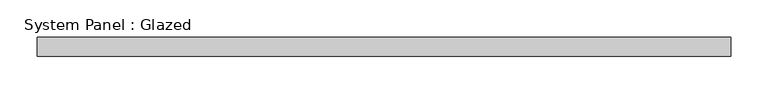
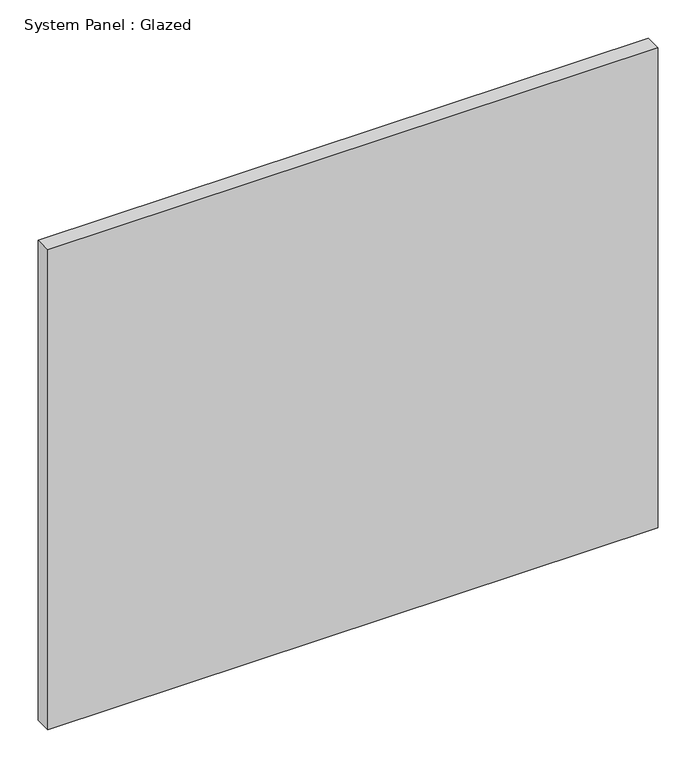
"""IFC4 building model written with IfcOpenShell, lengths in millimetres: plate geometry, System Panel : Glazed."""

from ifc_helpers import new_model, si_unit, origin, origin_with_axes, place, context, project, spatial, polyline, outline, extrude, source, transform, mapped, element, save


def system_panel_glazed_83a0b09a(model_context):
    return source(origin(), model_context, "Body", "SweptSolid", [
        extrude(outline(polyline([(463.55, -44.45), (-463.55, -44.45), (-463.55, -19.05), (463.55, -19.05), (463.55, -44.45)])), origin_with_axes(), (0.0, 0.0, 1.0), 770.6690025),
    ])


if __name__ == "__main__":
    model = new_model("IFC4")
    model_context = context("Model", 3, world=origin())
    ifc_project = project(units=[si_unit("LENGTHUNIT", "METRE", prefix="MILLI")], contexts=[model_context])
    site = spatial("IfcSite", under=ifc_project)
    building = spatial("IfcBuilding", under=site)
    placement = place(None, origin())
    system_panel_glazed_shape = system_panel_glazed_83a0b09a(model_context)
    element("IfcPlate", 1, ObjectType="System Panel : Glazed", at=placement, inside=building, context=model_context, shape_type="MappedRepresentation", body=[
        mapped(system_panel_glazed_shape, transform((0.0, 0.0, 0.0), x_axis=(1.0, 0.0, 0.0), y_axis=(0.0, 1.0, 0.0), z_axis=(0.0, 0.0, 1.0))),
    ])
    save(model, "model.ifc")
